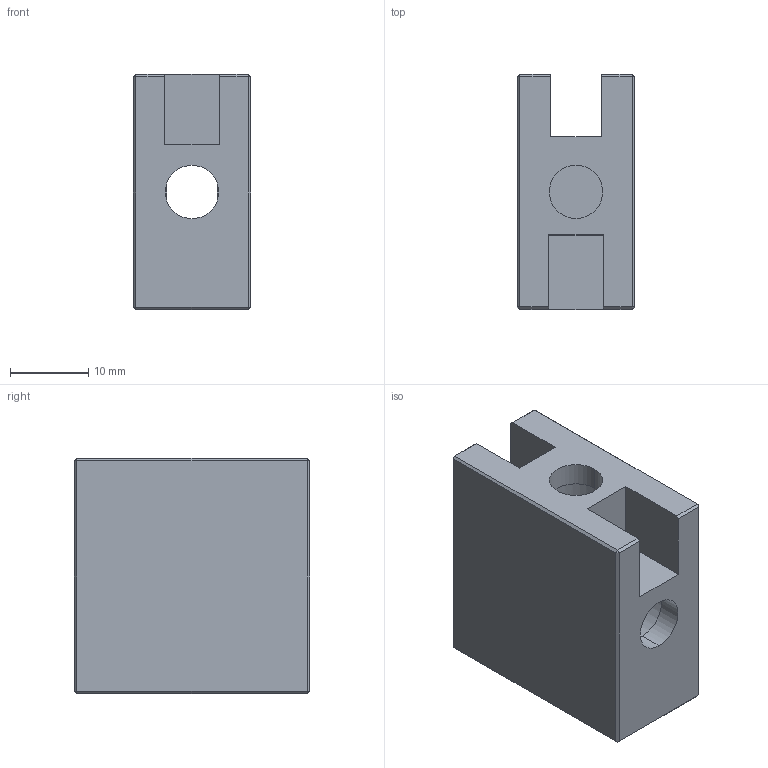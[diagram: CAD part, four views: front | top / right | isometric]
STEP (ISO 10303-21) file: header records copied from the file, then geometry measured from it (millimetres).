
FILE_DESCRIPTION (( 'STEP AP203' ), '1' );
FILE_NAME ('WDF1530W.STEP', '2024-02-19T01:10:24', ( '' ), ( '' ), 'SwSTEP 2.0', 'SolidWorks 2022', '' );
FILE_SCHEMA (( 'CONFIG_CONTROL_DESIGN' ));
Length unit declared in the file: millimetre
Products named in the file (1): WDF1530W
Bounding box: 15 x 30 x 30 mm (x, y, z)
Volume: 7767.9 mm3; surface area: 5396.8 mm2
Topology: 1 solids, 1 shells, 72 faces, 175 edges, 106 vertices
Faces by surface type: plane 48, cylinder 16, cone 8
Entity records: 2158 total; most frequent: CARTESIAN_POINT 408, ORIENTED_EDGE 350, DIRECTION 343, EDGE_CURVE 175, LINE 117, VECTOR 117, AXIS2_PLACEMENT_3D 113, VERTEX_POINT 106
